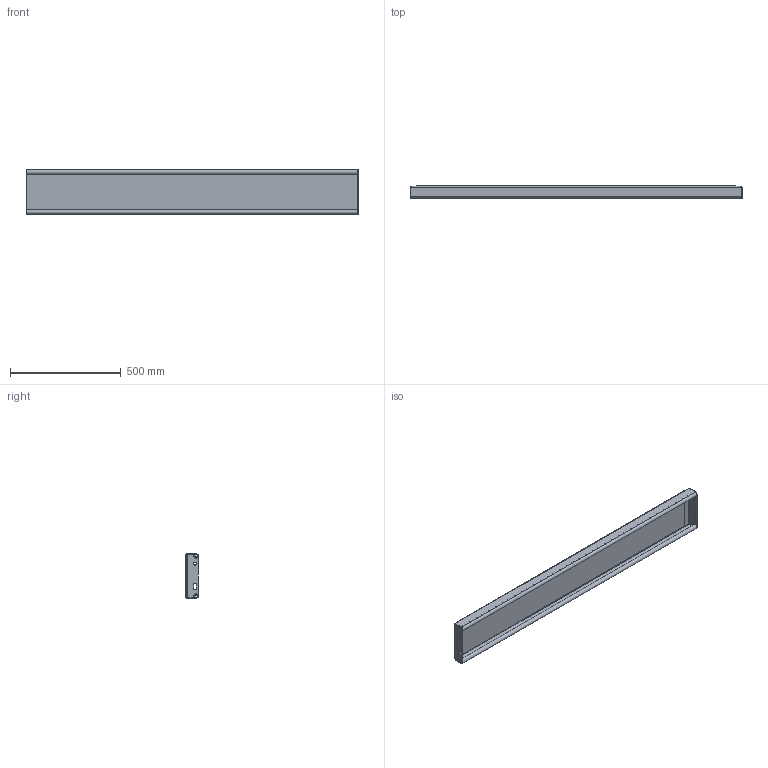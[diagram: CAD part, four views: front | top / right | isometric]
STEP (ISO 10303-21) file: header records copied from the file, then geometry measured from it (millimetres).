
FILE_DESCRIPTION (( 'STEP AP214' ), '1' );
FILE_NAME ('OPTIMO-Tread-Achil-O2-1500x200x57x2-st240-F100200100-plain.STEP', '2021-03-15T10:29:19', ( '' ), ( '' ), 'SwSTEP 2.0', 'SolidWorks 2021', '' );
FILE_SCHEMA (( 'AUTOMOTIVE_DESIGN' ));
Length unit declared in the file: millimetre
Products named in the file (1): OPTIMO-Tread-Achil-O2-1500x200x57x2-st240-F100200100-plain
Bounding box: 1500 x 57 x 200 mm (x, y, z)
Volume: 2001352.6 mm3; surface area: 1190355.9 mm2
Topology: 1 solids, 1 shells, 248 faces, 640 edges, 412 vertices
Faces by surface type: plane 173, bspline 39, cylinder 36
Entity records: 9924 total; most frequent: CARTESIAN_POINT 4092, ORIENTED_EDGE 1280, DIRECTION 1022, EDGE_CURVE 640, LINE 490, VECTOR 490, VERTEX_POINT 412, EDGE_LOOP 274
